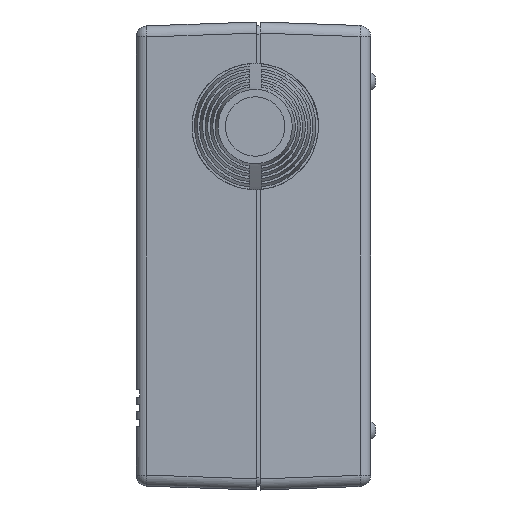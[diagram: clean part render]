
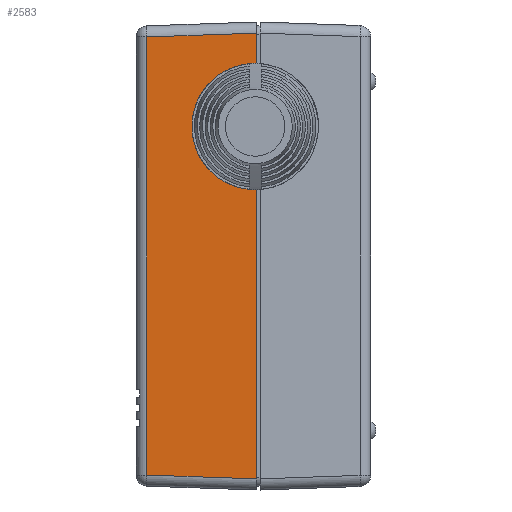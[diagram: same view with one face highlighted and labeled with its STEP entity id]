
A CAD part, left-side view. The second image highlights one B-rep face of the part: STEP entity #2583.
In plain terms, the highlighted planar face has unit normal (-0.999, 0.035, 0).
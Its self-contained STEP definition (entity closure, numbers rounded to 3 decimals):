
#39 = ORIENTED_EDGE ( 'NONE', *, *, #4733, .T. ) ;
#141 = EDGE_CURVE ( 'NONE', #9637, #13357, #4960, .T. ) ;
#255 = VECTOR ( 'NONE', #6547, 1000. ) ;
#857 = DIRECTION ( 'NONE',  ( 0., 0., -1. ) ) ;
#937 = CARTESIAN_POINT ( 'NONE',  ( -69.485, 14.752, -30.934 ) ) ;
#978 = CARTESIAN_POINT ( 'NONE',  ( -70., 0., 30.001 ) ) ;
#1455 = CARTESIAN_POINT ( 'NONE',  ( -70., 0., -31.5 ) ) ;
#1853 = VECTOR ( 'NONE', #857, 1000. ) ;
#1859 = CARTESIAN_POINT ( 'NONE',  ( -70., 0., 25.5 ) ) ;
#2468 = DIRECTION ( 'NONE',  ( 0., 0., 1. ) ) ;
#2583 = ADVANCED_FACE ( 'NONE', ( #14143 ), #6577, .T. ) ;
#2712 = CARTESIAN_POINT ( 'NONE',  ( -70., 0., -31.5 ) ) ;
#2825 = EDGE_CURVE ( 'NONE', #13357, #15699, #12600, .T. ) ;
#3363 = CARTESIAN_POINT ( 'NONE',  ( -69.45, 15.74, 25.5 ) ) ;
#3533 = LINE ( 'NONE', #2712, #13929 ) ;
#4446 = DIRECTION ( 'NONE',  ( -0.035, -0.999, -0.035 ) ) ;
#4647 = CARTESIAN_POINT ( 'NONE',  ( -69.925, 2.142, 29.926 ) ) ;
#4733 = EDGE_CURVE ( 'NONE', #13154, #12598, #14374, .T. ) ;
#4788 = EDGE_CURVE ( 'NONE', #15699, #13154, #3533, .T. ) ;
#4960 = LINE ( 'NONE', #1455, #7882 ) ;
#5408 = CARTESIAN_POINT ( 'NONE',  ( -69.485, 14.752, 29.486 ) ) ;
#5670 = ORIENTED_EDGE ( 'NONE', *, *, #14515, .T. ) ;
#5987 = CARTESIAN_POINT ( 'NONE',  ( -70.002, -0.052, -30.003 ) ) ;
#6144 = CARTESIAN_POINT ( 'NONE',  ( -70., 0., 25.5 ) ) ;
#6392 = DIRECTION ( 'NONE',  ( -0.035, -0.999, 0. ) ) ;
#6456 = DIRECTION ( 'NONE',  ( -0.999, 0.035, 0. ) ) ;
#6547 = DIRECTION ( 'NONE',  ( 0.035, 0.999, -0.035 ) ) ;
#6577 = PLANE ( 'NONE',  #13992 ) ;
#6625 = DIRECTION ( 'NONE',  ( 0., 0., 1. ) ) ;
#6883 = CARTESIAN_POINT ( 'NONE',  ( -70., 0., -31.5 ) ) ;
#6936 = VECTOR ( 'NONE', #4446, 1000. ) ;
#7826 = EDGE_CURVE ( 'NONE', #12598, #9783, #17355, .T. ) ;
#7882 = VECTOR ( 'NONE', #6625, 1000. ) ;
#8132 = CARTESIAN_POINT ( 'NONE',  ( -69.45, 15.74, 9.76 ) ) ;
#9252 = ORIENTED_EDGE ( 'NONE', *, *, #4788, .T. ) ;
#9637 = VERTEX_POINT ( 'NONE', #18209 ) ;
#9783 = VERTEX_POINT ( 'NONE', #17171 ) ;
#11548 = LINE ( 'NONE', #5987, #6936 ) ;
#12598 = VERTEX_POINT ( 'NONE', #5408 ) ;
#12600 =( BOUNDED_CURVE ( )  B_SPLINE_CURVE ( 3, ( #16269, #8132, #3363, #6144 ),
 .UNSPECIFIED., .F., .F. ) 
 B_SPLINE_CURVE_WITH_KNOTS ( ( 4, 4 ),
 ( 1.571, 4.712 ),
 .UNSPECIFIED. ) 
 CURVE ( )  GEOMETRIC_REPRESENTATION_ITEM ( )  RATIONAL_B_SPLINE_CURVE ( ( 1., 0.333, 0.333, 1. ) ) 
 REPRESENTATION_ITEM ( '' )  );
#13154 = VERTEX_POINT ( 'NONE', #978 ) ;
#13357 = VERTEX_POINT ( 'NONE', #15417 ) ;
#13929 = VECTOR ( 'NONE', #2468, 1000. ) ;
#13992 = AXIS2_PLACEMENT_3D ( 'NONE', #6883, #6456, #6392 ) ;
#14143 = FACE_OUTER_BOUND ( 'NONE', #14369, .T. ) ;
#14369 = EDGE_LOOP ( 'NONE', ( #16326, #9252, #39, #17661, #5670, #15390 ) ) ;
#14374 = LINE ( 'NONE', #4647, #255 ) ;
#14515 = EDGE_CURVE ( 'NONE', #9783, #9637, #11548, .T. ) ;
#15390 = ORIENTED_EDGE ( 'NONE', *, *, #141, .T. ) ;
#15417 = CARTESIAN_POINT ( 'NONE',  ( -70., 0., 9.76 ) ) ;
#15699 = VERTEX_POINT ( 'NONE', #1859 ) ;
#16269 = CARTESIAN_POINT ( 'NONE',  ( -70., 0., 9.76 ) ) ;
#16326 = ORIENTED_EDGE ( 'NONE', *, *, #2825, .T. ) ;
#17171 = CARTESIAN_POINT ( 'NONE',  ( -69.485, 14.752, -29.486 ) ) ;
#17355 = LINE ( 'NONE', #937, #1853 ) ;
#17661 = ORIENTED_EDGE ( 'NONE', *, *, #7826, .T. ) ;
#18209 = CARTESIAN_POINT ( 'NONE',  ( -70., 0., -30.001 ) ) ;
